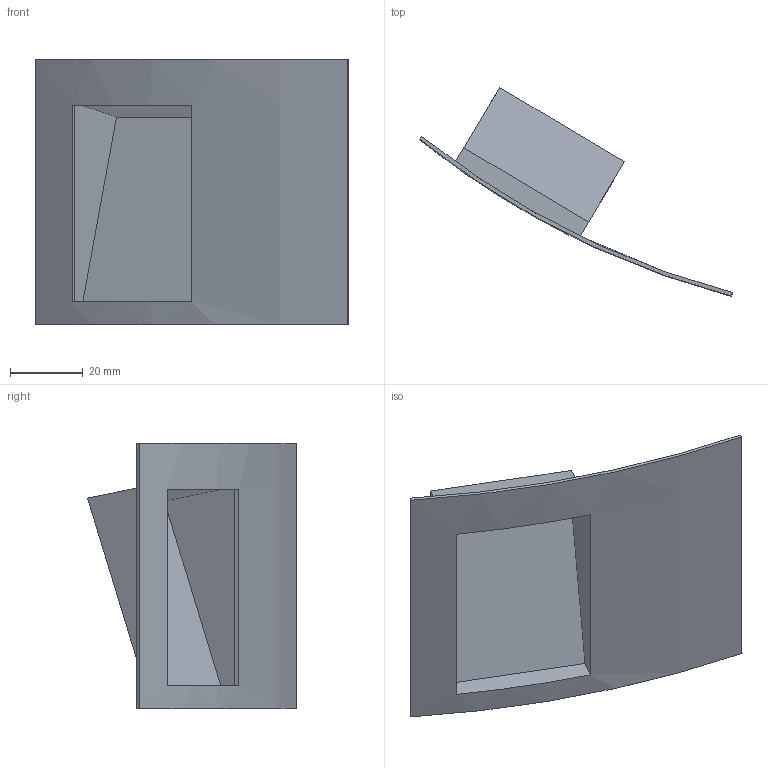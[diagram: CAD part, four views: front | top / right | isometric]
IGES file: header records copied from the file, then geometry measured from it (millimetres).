
Start section: 3D InterOp IGES (Version 21 0 3), Spatial Corp. Copyright (c) 1999-2007.
Global section: file name: CSR Coin Return - Front 20140329.igs; native system: Spatial Corp.; preprocessor: 3D InterOp GENERIC/IGES 3.0; author: Noname; organization: Noname; date: 20140501.124705; units: inch
Bounding box: 86.15 x 57.46 x 73.03 mm (x, y, z)
Surface area: 20010.2 mm2 (no closed solid volume)
Topology: 0 solids, 0 shells, 20 faces, 96 edges, 96 vertices
Faces by surface type: extrusion 18, revolution 2
